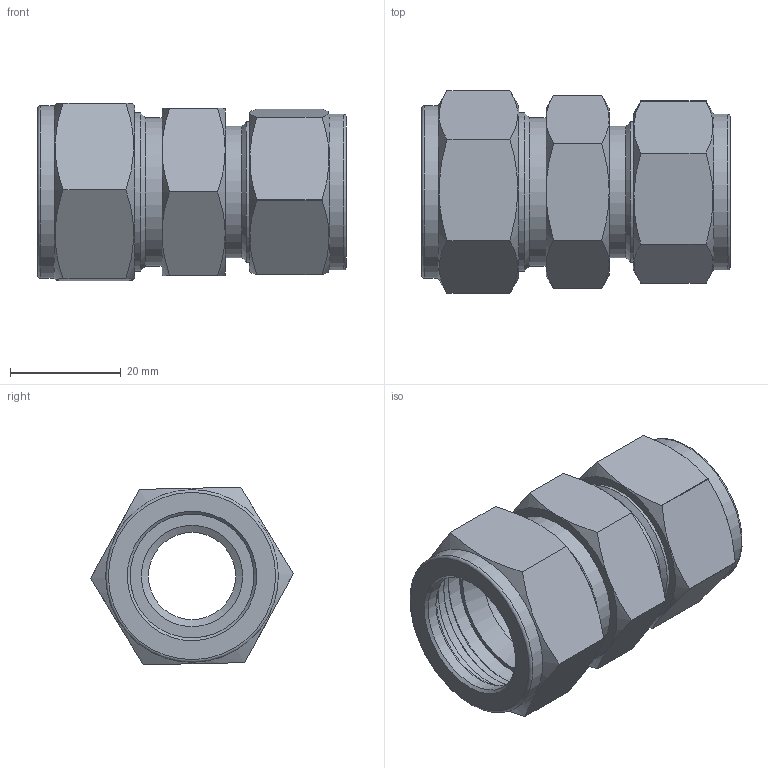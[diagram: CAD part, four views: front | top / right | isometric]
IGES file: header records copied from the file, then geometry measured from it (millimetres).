
Global section: file name: No Iges File Name specified; native system: Autodesk Inventor 2012; preprocessor: AutoDesk Inventor Iges Exporter R2012; author: 硅己绕,,1; organization: 1; date: 20150428.134243; units: millimetre
Bounding box: 55.76 x 36.6 x 32.08 mm (x, y, z)
Volume: 18726.1 mm3; surface area: 14209.7 mm2
Topology: 3 solids, 3 shells, 95 faces, 198 edges, 118 vertices
Faces by surface type: plane 33, revolution 24, cone 20, cylinder 14, torus 4
Full cylindrical faces by diameter (mm): 23.7 x1, 23.8 x1, 25.4 x1, 26.8 x2, 28.2 x1, 28.58 x1, 31.2 x1
